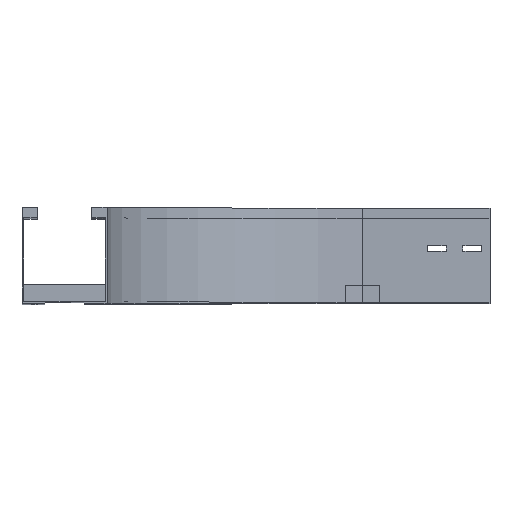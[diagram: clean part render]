
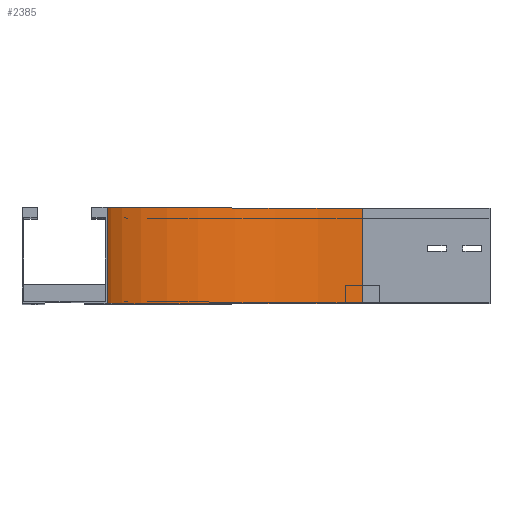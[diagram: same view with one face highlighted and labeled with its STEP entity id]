
A CAD part, top view. The second image highlights one B-rep face of the part: STEP entity #2385.
In plain terms, the highlighted cylindrical face has radius 300 mm (diameter 600 mm), a partial arc.
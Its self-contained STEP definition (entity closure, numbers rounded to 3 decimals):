
#8 = CIRCLE ( 'NONE', #2210, 300. ) ;
#123 = DIRECTION ( 'NONE',  ( 0., -1., 0. ) ) ;
#130 = VERTEX_POINT ( 'NONE', #1985 ) ;
#435 = CARTESIAN_POINT ( 'NONE',  ( 300., 0., -150. ) ) ;
#534 = CIRCLE ( 'NONE', #2032, 300. ) ;
#650 = EDGE_LOOP ( 'NONE', ( #3441, #3098, #3034, #2412 ) ) ;
#793 = CARTESIAN_POINT ( 'NONE',  ( 0., 0., -150. ) ) ;
#800 = LINE ( 'NONE', #3503, #2569 ) ;
#805 = EDGE_CURVE ( 'NONE', #3758, #3228, #8, .T. ) ;
#1046 = CARTESIAN_POINT ( 'NONE',  ( 300., 112.5, -150. ) ) ;
#1047 = AXIS2_PLACEMENT_3D ( 'NONE', #435, #123, #2220 ) ;
#1082 = DIRECTION ( 'NONE',  ( -1., 0., 0. ) ) ;
#1097 = DIRECTION ( 'NONE',  ( 0., -1., 0. ) ) ;
#1124 = EDGE_CURVE ( 'NONE', #1690, #130, #534, .T. ) ;
#1242 = EDGE_CURVE ( 'NONE', #1690, #3758, #800, .T. ) ;
#1665 = DIRECTION ( 'NONE',  ( 0., 1., 0. ) ) ;
#1690 = VERTEX_POINT ( 'NONE', #793 ) ;
#1904 = CYLINDRICAL_SURFACE ( 'NONE', #1047, 300. ) ;
#1985 = CARTESIAN_POINT ( 'NONE',  ( 300., 0., -450. ) ) ;
#2032 = AXIS2_PLACEMENT_3D ( 'NONE', #2777, #2219, #2483 ) ;
#2210 = AXIS2_PLACEMENT_3D ( 'NONE', #1046, #1097, #1082 ) ;
#2219 = DIRECTION ( 'NONE',  ( 0., -1., 0. ) ) ;
#2220 = DIRECTION ( 'NONE',  ( 0., 0., -1. ) ) ;
#2235 = EDGE_CURVE ( 'NONE', #130, #3228, #2682, .T. ) ;
#2270 = VECTOR ( 'NONE', #2701, 1000. ) ;
#2308 = CARTESIAN_POINT ( 'NONE',  ( 300., 112.5, -450. ) ) ;
#2385 = ADVANCED_FACE ( 'NONE', ( #3661 ), #1904, .F. ) ;
#2412 = ORIENTED_EDGE ( 'NONE', *, *, #2235, .T. ) ;
#2483 = DIRECTION ( 'NONE',  ( -1., 0., 0. ) ) ;
#2569 = VECTOR ( 'NONE', #1665, 1000. ) ;
#2682 = LINE ( 'NONE', #2946, #2270 ) ;
#2701 = DIRECTION ( 'NONE',  ( 0., 1., 0. ) ) ;
#2749 = CARTESIAN_POINT ( 'NONE',  ( 0., 112.5, -150. ) ) ;
#2777 = CARTESIAN_POINT ( 'NONE',  ( 300., 0., -150. ) ) ;
#2946 = CARTESIAN_POINT ( 'NONE',  ( 300., 0., -450. ) ) ;
#3034 = ORIENTED_EDGE ( 'NONE', *, *, #1124, .T. ) ;
#3098 = ORIENTED_EDGE ( 'NONE', *, *, #1242, .F. ) ;
#3228 = VERTEX_POINT ( 'NONE', #2308 ) ;
#3441 = ORIENTED_EDGE ( 'NONE', *, *, #805, .F. ) ;
#3503 = CARTESIAN_POINT ( 'NONE',  ( 0., 0., -150. ) ) ;
#3661 = FACE_OUTER_BOUND ( 'NONE', #650, .T. ) ;
#3758 = VERTEX_POINT ( 'NONE', #2749 ) ;
